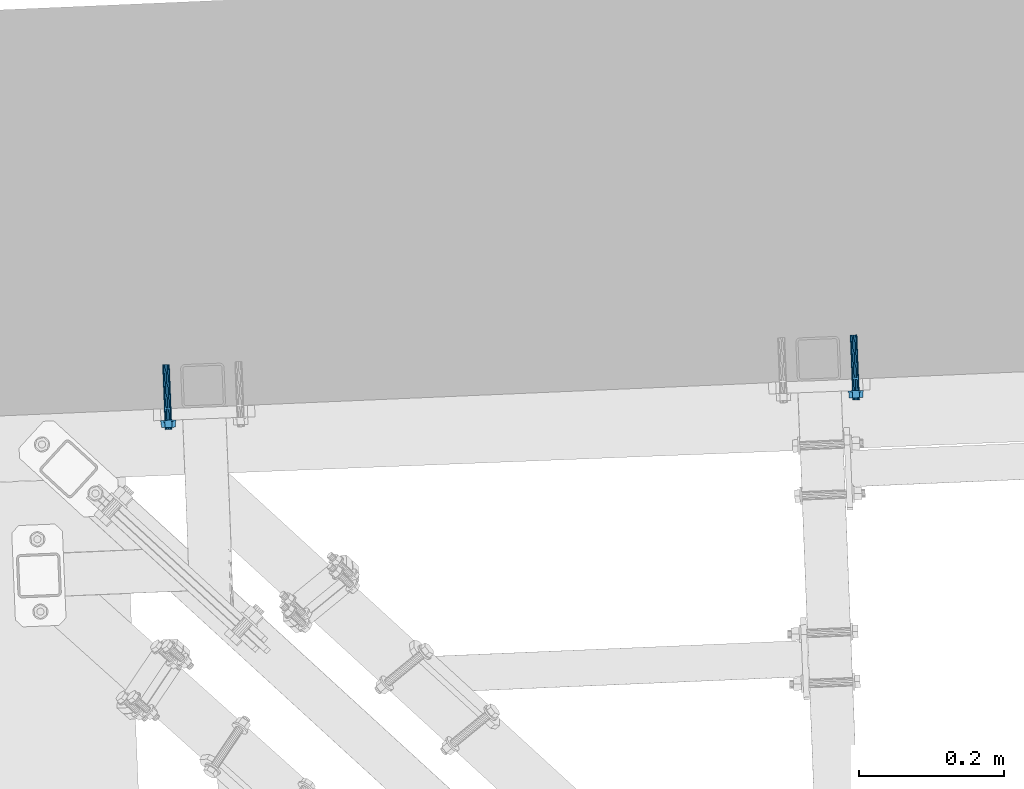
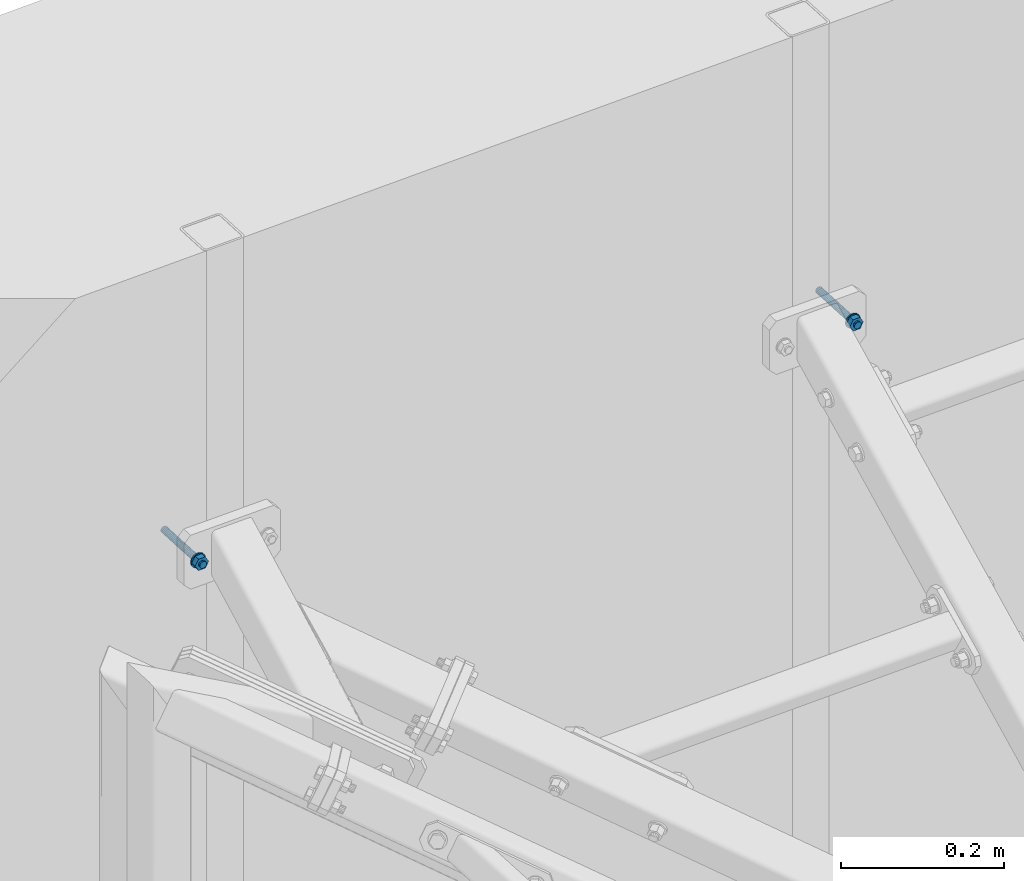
# One storey, part 256 of 288: 2 mechanical fasteners.
"""IFC2X3 building model written with IfcOpenShell, lengths in millimetres."""

from ifc_helpers import new_model, entity, si_unit, converted_unit, origin_with_axes, place, context, project, spatial, faceted_brep, element, save


model = new_model("IFC2X3")

# Units and contexts
model_context = context("Model", 3, precision=1e-09, world=origin_with_axes())
ifc_project = project(units=[si_unit("LENGTHUNIT", "METRE", prefix="MILLI"), si_unit("AREAUNIT", "SQUARE_METRE"), si_unit("VOLUMEUNIT", "CUBIC_METRE"), converted_unit("PLANEANGLEUNIT", "DEGREE", entity("IfcPlaneAngleMeasure", 0.01745329), si_unit("PLANEANGLEUNIT", "RADIAN"), dimensions=[0, 0, 0, 0, 0, 0, 0])], contexts=[model_context])

# Site, building, storey
site_placement = place(None, origin_with_axes())
site = spatial("IfcSite", under=ifc_project, at=site_placement, Name="Remont ?wietlik?w nad MC w NCPP w Opolu", CompositionType="ELEMENT")
building_placement = place(site_placement, origin_with_axes())
building = spatial("IfcBuilding", under=site, at=building_placement, Name="Konstrukcja 1", CompositionType="ELEMENT")
storey_placement = place(building_placement, origin_with_axes())
storey = spatial("IfcBuildingStorey", under=building, at=storey_placement, Name="Default Storey", CompositionType="ELEMENT", Elevation=0.0)

# Mechanical fasteners
mechanical_fastener_1_placement = place(None, origin_with_axes())
element("IfcMechanicalFastener", 1, at=mechanical_fastener_1_placement, inside=storey, ObjectType="Anchor_Bolt", NominalDiameter=10.0, NominalLength=90.0, context=model_context, shape_type="Brep", body=[
    faceted_brep([(-584.520284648, 15507.84960625, 1296.825245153), (-584.59907081, 15509.848053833, 1296.825245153), (-586.645929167, 15509.767359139, 1296.623490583), (-586.567143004, 15507.768911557, 1296.623490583), (-588.614127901, 15509.689765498, 1296.025980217), (-588.535341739, 15507.691317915, 1296.025980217), (-590.428030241, 15509.618254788, 1295.055676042), (-590.349244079, 15507.619807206, 1295.055676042), (-592.017928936, 15509.555575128, 1293.749866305), (-591.939142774, 15507.557127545, 1293.749866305), (-593.322725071, 15509.504135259, 1292.15873254), (-593.243938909, 15507.505687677, 1292.15873254), (-594.292276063, 15509.465911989, 1290.343421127), (-594.2134899, 15507.467464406, 1290.343421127), (-594.889322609, 15509.442374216, 1288.373693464), (-594.810536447, 15507.443926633, 1288.373693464), (-595.090920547, 15509.434426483, 1286.325245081), (-595.012134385, 15507.4359789, 1286.325245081), (-594.889322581, 15509.442374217, 1284.276796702), (-594.810536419, 15507.443926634, 1284.276796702), (-594.292276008, 15509.465911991, 1282.307069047), (-594.213489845, 15507.467464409, 1282.307069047), (-593.322724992, 15509.504135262, 1280.491757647), (-593.243938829, 15507.50568768, 1280.491757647), (-592.017928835, 15509.555575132, 1278.9006239), (-591.939142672, 15507.557127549, 1278.9006239), (-590.428030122, 15509.618254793, 1277.594814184), (-590.34924396, 15507.619807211, 1277.594814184), (-588.614127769, 15509.689765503, 1276.624510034), (-588.535341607, 15507.69131792, 1276.624510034), (-586.645929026, 15509.767359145, 1276.026999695), (-586.567142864, 15507.768911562, 1276.026999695), (-584.599070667, 15509.848053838, 1275.825245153), (-584.520284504, 15507.849606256, 1275.825245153), (-582.55221231, 15509.928748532, 1276.026999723), (-582.473426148, 15507.930300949, 1276.026999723), (-580.584013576, 15510.006342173, 1276.624510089), (-580.505227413, 15508.007894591, 1276.624510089), (-578.770111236, 15510.077852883, 1277.594814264), (-578.691325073, 15508.0794053, 1277.594814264), (-577.180212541, 15510.140532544, 1278.900624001), (-577.101426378, 15508.142084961, 1278.900624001), (-575.875416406, 15510.191972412, 1280.491757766), (-575.796630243, 15508.193524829, 1280.491757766), (-574.905865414, 15510.230195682, 1282.30706918), (-574.827079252, 15508.2317481, 1282.30706918), (-574.308818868, 15510.253733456, 1284.276796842), (-574.230032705, 15508.255285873, 1284.276796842), (-574.10722093, 15510.261681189, 1286.325245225), (-574.028434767, 15508.263233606, 1286.325245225), (-574.308818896, 15510.253733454, 1288.373693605), (-574.230032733, 15508.255285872, 1288.373693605), (-574.905865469, 15510.23019568, 1290.343421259), (-574.827079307, 15508.231748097, 1290.343421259), (-575.875416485, 15510.191972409, 1292.158732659), (-575.796630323, 15508.193524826, 1292.158732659), (-577.180212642, 15510.14053254, 1293.749866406), (-577.10142648, 15508.142084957, 1293.749866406), (-578.770111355, 15510.077852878, 1295.055676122), (-578.691325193, 15508.079405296, 1295.055676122), (-580.584013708, 15510.006342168, 1296.025980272), (-580.505227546, 15508.007894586, 1296.025980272), (-582.552212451, 15509.928748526, 1296.623490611), (-582.473426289, 15507.930300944, 1296.623490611)], [[[0, 1, 2, 3]], [[3, 2, 4, 5]], [[5, 4, 6, 7]], [[7, 6, 8, 9]], [[9, 8, 10, 11]], [[11, 10, 12, 13]], [[13, 12, 14, 15]], [[15, 14, 16, 17]], [[17, 16, 18, 19]], [[19, 18, 20, 21]], [[21, 20, 22, 23]], [[23, 22, 24, 25]], [[25, 24, 26, 27]], [[27, 26, 28, 29]], [[29, 28, 30, 31]], [[31, 30, 32, 33]], [[33, 32, 34, 35]], [[35, 34, 36, 37]], [[37, 36, 38, 39]], [[39, 38, 40, 41]], [[41, 40, 42, 43]], [[43, 42, 44, 45]], [[45, 44, 46, 47]], [[47, 46, 48, 49]], [[49, 48, 50, 51]], [[51, 50, 52, 53]], [[53, 52, 54, 55]], [[55, 54, 56, 57]], [[57, 56, 58, 59]], [[59, 58, 60, 61]], [[61, 60, 62, 63]], [[63, 62, 1, 0]], [[0, 3, 5, 7, 9, 11, 13, 15, 17, 19, 21, 23, 25, 27, 29, 31, 33, 35, 37, 39, 41, 43, 45, 47, 49, 51, 53, 55, 57, 59, 61, 63]], [[1, 62, 60, 58, 56, 54, 52, 50, 48, 46, 44, 42, 40, 38, 36, 34, 32, 30, 28, 26, 24, 22, 20, 18, 16, 14, 12, 10, 8, 6, 4, 2]]]),
    faceted_brep([(-589.416481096, 15507.656580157, 1277.838196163), (-589.101336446, 15499.662789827, 1277.838196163), (-593.997533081, 15499.469763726, 1286.325245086), (-594.312677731, 15507.463554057, 1286.325245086), (-589.101336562, 15499.662789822, 1294.812294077), (-589.416481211, 15507.656580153, 1294.812294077), (-579.308943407, 15500.048842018, 1294.812294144), (-579.624088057, 15508.042632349, 1294.812294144), (-574.412746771, 15500.241868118, 1286.32524522), (-574.727891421, 15508.235658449, 1286.32524522), (-579.308943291, 15500.048842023, 1277.83819623), (-579.624087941, 15508.042632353, 1277.83819623)], [[[0, 1, 2, 3]], [[3, 2, 4, 5]], [[5, 4, 6, 7]], [[7, 6, 8, 9]], [[9, 8, 10, 11]], [[11, 10, 1, 0]], [[4, 2, 1, 10, 8, 6]], [[0, 3, 5, 7, 9, 11]]]),
    faceted_brep([(-584.086960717, 15496.858144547, 1291.325245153), (-584.20513996, 15499.855815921, 1291.325245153), (-586.117071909, 15499.780440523, 1290.944642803), (-585.998892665, 15496.782769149, 1290.944642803), (-587.737929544, 15499.716540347, 1289.860779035), (-587.6197503, 15496.718868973, 1289.860779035), (-588.820951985, 15499.673843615, 1288.238662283), (-588.702772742, 15496.676172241, 1288.238662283), (-589.201258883, 15499.658850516, 1286.325245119), (-589.083079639, 15496.661179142, 1286.325245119), (-588.820951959, 15499.673843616, 1284.41182796), (-588.702772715, 15496.676172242, 1284.41182796), (-587.737929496, 15499.716540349, 1282.789711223), (-587.619750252, 15496.718868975, 1282.789711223), (-586.117071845, 15499.780440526, 1281.705847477), (-585.998892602, 15496.782769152, 1281.705847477), (-584.205139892, 15499.855815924, 1281.325245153), (-584.086960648, 15496.85814455, 1281.325245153), (-582.293207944, 15499.931191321, 1281.705847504), (-582.1750287, 15496.933519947, 1281.705847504), (-580.672350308, 15499.995091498, 1282.789711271), (-580.554171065, 15496.997420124, 1282.789711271), (-579.589327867, 15500.03778823, 1284.411828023), (-579.471148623, 15497.040116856, 1284.411828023), (-579.20902097, 15500.052781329, 1286.325245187), (-579.090841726, 15497.055109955, 1286.325245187), (-579.589327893, 15500.037788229, 1288.238662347), (-579.47114865, 15497.040116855, 1288.238662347), (-580.672350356, 15499.995091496, 1289.860779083), (-580.554171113, 15496.997420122, 1289.860779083), (-582.293208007, 15499.931191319, 1290.944642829), (-582.175028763, 15496.933519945, 1290.944642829)], [[[0, 1, 2, 3]], [[3, 2, 4, 5]], [[5, 4, 6, 7]], [[7, 6, 8, 9]], [[9, 8, 10, 11]], [[11, 10, 12, 13]], [[13, 12, 14, 15]], [[15, 14, 16, 17]], [[17, 16, 18, 19]], [[19, 18, 20, 21]], [[21, 20, 22, 23]], [[23, 22, 24, 25]], [[25, 24, 26, 27]], [[27, 26, 28, 29]], [[29, 28, 30, 31]], [[31, 30, 1, 0]], [[0, 3, 5, 7, 9, 11, 13, 15, 17, 19, 21, 23, 25, 27, 29, 31]], [[1, 30, 28, 26, 24, 22, 20, 18, 16, 14, 12, 10, 8, 6, 4, 2]]]),
    faceted_brep([(-584.599070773, 15509.848053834, 1291.325245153), (-585.229360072, 15525.835634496, 1291.325245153), (-587.141292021, 15525.760259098, 1290.944642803), (-586.511002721, 15509.772678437, 1290.944642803), (-588.762149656, 15525.696358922, 1289.860779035), (-588.131860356, 15509.70877826, 1289.860779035), (-589.845172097, 15525.653662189, 1288.238662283), (-589.214882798, 15509.666081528, 1288.238662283), (-590.225478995, 15525.638669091, 1286.325245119), (-589.595189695, 15509.65108843, 1286.325245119), (-589.845172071, 15525.65366219, 1284.41182796), (-589.214882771, 15509.666081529, 1284.41182796), (-588.762149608, 15525.696358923, 1282.789711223), (-588.131860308, 15509.708778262, 1282.789711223), (-587.141291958, 15525.7602591, 1281.705847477), (-586.511002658, 15509.772678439, 1281.705847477), (-585.229360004, 15525.835634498, 1281.325245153), (-584.599070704, 15509.848053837, 1281.325245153), (-583.317428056, 15525.911009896, 1281.705847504), (-582.687138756, 15509.923429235, 1281.705847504), (-581.69657042, 15525.974910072, 1282.789711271), (-581.066281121, 15509.987329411, 1282.789711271), (-580.613547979, 15526.017606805, 1284.411828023), (-579.983258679, 15510.030026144, 1284.411828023), (-580.233241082, 15526.032599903, 1286.325245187), (-579.602951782, 15510.045019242, 1286.325245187), (-580.613548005, 15526.017606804, 1288.238662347), (-579.983258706, 15510.030026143, 1288.238662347), (-581.696570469, 15525.97491007, 1289.860779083), (-581.066281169, 15509.987329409, 1289.860779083), (-583.317428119, 15525.911009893, 1290.944642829), (-582.687138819, 15509.923429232, 1290.944642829)], [[[0, 1, 2, 3]], [[3, 2, 4, 5]], [[5, 4, 6, 7]], [[7, 6, 8, 9]], [[9, 8, 10, 11]], [[11, 10, 12, 13]], [[13, 12, 14, 15]], [[15, 14, 16, 17]], [[17, 16, 18, 19]], [[19, 18, 20, 21]], [[21, 20, 22, 23]], [[23, 22, 24, 25]], [[25, 24, 26, 27]], [[27, 26, 28, 29]], [[29, 28, 30, 31]], [[31, 30, 1, 0]], [[0, 3, 5, 7, 9, 11, 13, 15, 17, 19, 21, 23, 25, 27, 29, 31]], [[1, 30, 28, 26, 24, 22, 20, 18, 16, 14, 12, 10, 8, 6, 4, 2]]]),
    faceted_brep([(-585.229360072, 15525.835634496, 1291.325245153), (-585.268753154, 15526.834858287, 1291.325245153), (-586.243447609, 15526.796432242, 1291.229171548), (-586.204054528, 15525.797208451, 1291.229171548), (-587.180685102, 15526.759482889, 1290.944642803), (-587.141292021, 15525.760259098, 1290.944642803), (-588.044448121, 15526.72543017, 1290.482593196), (-588.00505504, 15525.726206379, 1290.482593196), (-588.801542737, 15526.695582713, 1289.860779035), (-588.762149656, 15525.696358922, 1289.860779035), (-589.42287423, 15526.671087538, 1289.10309629), (-589.383481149, 15525.671863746, 1289.10309629), (-589.884565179, 15526.65288598, 1288.238662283), (-589.845172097, 15525.653662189, 1288.238662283), (-590.168873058, 15526.641677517, 1287.30069673), (-590.129479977, 15525.642453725, 1287.30069673), (-590.264872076, 15526.637892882, 1286.325245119), (-590.225478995, 15525.638669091, 1286.325245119), (-590.168873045, 15526.641677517, 1285.34979351), (-590.129479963, 15525.642453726, 1285.34979351), (-589.884565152, 15526.652885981, 1284.41182796), (-589.845172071, 15525.65366219, 1284.41182796), (-589.422874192, 15526.671087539, 1283.54739396), (-589.383481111, 15525.671863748, 1283.54739396), (-588.801542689, 15526.695582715, 1282.789711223), (-588.762149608, 15525.696358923, 1282.789711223), (-588.044448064, 15526.725430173, 1282.167897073), (-588.005054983, 15525.726206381, 1282.167897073), (-587.180685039, 15526.759482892, 1281.705847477), (-587.141291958, 15525.7602591, 1281.705847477), (-586.243447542, 15526.796432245, 1281.421318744), (-586.204054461, 15525.797208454, 1281.421318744), (-585.268753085, 15526.83485829, 1281.325245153), (-585.229360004, 15525.835634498, 1281.325245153), (-584.29405863, 15526.873284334, 1281.421318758), (-584.254665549, 15525.874060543, 1281.421318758), (-583.356821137, 15526.910233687, 1281.705847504), (-583.317428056, 15525.911009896, 1281.705847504), (-582.493058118, 15526.944286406, 1282.167897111), (-582.453665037, 15525.945062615, 1282.167897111), (-581.735963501, 15526.974133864, 1282.789711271), (-581.69657042, 15525.974910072, 1282.789711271), (-581.114632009, 15526.998629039, 1283.547394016), (-581.075238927, 15525.999405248, 1283.547394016), (-580.65294106, 15527.016830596, 1284.411828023), (-580.613547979, 15526.017606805, 1284.411828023), (-580.368633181, 15527.02803906, 1285.349793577), (-580.3292401, 15526.028815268, 1285.349793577), (-580.272634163, 15527.031823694, 1286.325245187), (-580.233241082, 15526.032599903, 1286.325245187), (-580.368633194, 15527.028039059, 1287.300696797), (-580.329240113, 15526.028815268, 1287.300696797), (-580.652941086, 15527.016830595, 1288.238662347), (-580.613548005, 15526.017606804, 1288.238662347), (-581.114632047, 15526.998629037, 1289.103096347), (-581.075238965, 15525.999405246, 1289.103096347), (-581.73596355, 15526.974133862, 1289.860779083), (-581.696570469, 15525.97491007, 1289.860779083), (-582.493058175, 15526.944286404, 1290.482593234), (-582.453665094, 15525.945062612, 1290.482593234), (-583.3568212, 15526.910233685, 1290.944642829), (-583.317428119, 15525.911009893, 1290.944642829), (-584.294058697, 15526.873284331, 1291.229171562), (-584.254665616, 15525.87406054, 1291.229171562)], [[[0, 1, 2, 3]], [[3, 2, 4, 5]], [[5, 4, 6, 7]], [[7, 6, 8, 9]], [[9, 8, 10, 11]], [[11, 10, 12, 13]], [[13, 12, 14, 15]], [[15, 14, 16, 17]], [[17, 16, 18, 19]], [[19, 18, 20, 21]], [[21, 20, 22, 23]], [[23, 22, 24, 25]], [[25, 24, 26, 27]], [[27, 26, 28, 29]], [[29, 28, 30, 31]], [[31, 30, 32, 33]], [[33, 32, 34, 35]], [[35, 34, 36, 37]], [[37, 36, 38, 39]], [[39, 38, 40, 41]], [[41, 40, 42, 43]], [[43, 42, 44, 45]], [[45, 44, 46, 47]], [[47, 46, 48, 49]], [[49, 48, 50, 51]], [[51, 50, 52, 53]], [[53, 52, 54, 55]], [[55, 54, 56, 57]], [[57, 56, 58, 59]], [[59, 58, 60, 61]], [[61, 60, 62, 63]], [[63, 62, 1, 0]], [[0, 3, 5, 7, 9, 11, 13, 15, 17, 19, 21, 23, 25, 27, 29, 31, 33, 35, 37, 39, 41, 43, 45, 47, 49, 51, 53, 55, 57, 59, 61, 63]], [[1, 62, 60, 58, 56, 54, 52, 50, 48, 46, 44, 42, 40, 38, 36, 34, 32, 30, 28, 26, 24, 22, 20, 18, 16, 14, 12, 10, 8, 6, 4, 2]]]),
    faceted_brep([(-585.268753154, 15526.834858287, 1291.325245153), (-587.632338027, 15586.788285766, 1291.325245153), (-589.544269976, 15586.712910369, 1290.944642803), (-587.180685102, 15526.759482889, 1290.944642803), (-591.165127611, 15586.649010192, 1289.860779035), (-588.801542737, 15526.695582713, 1289.860779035), (-592.248150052, 15586.60631346, 1288.238662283), (-589.884565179, 15526.65288598, 1288.238662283), (-592.62845695, 15586.591320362, 1286.325245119), (-590.264872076, 15526.637892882, 1286.325245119), (-592.248150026, 15586.606313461, 1284.41182796), (-589.884565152, 15526.652885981, 1284.41182796), (-591.165127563, 15586.649010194, 1282.789711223), (-588.801542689, 15526.695582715, 1282.789711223), (-589.544269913, 15586.712910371, 1281.705847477), (-587.180685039, 15526.759482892, 1281.705847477), (-587.632337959, 15586.788285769, 1281.325245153), (-585.268753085, 15526.83485829, 1281.325245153), (-585.720406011, 15586.863661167, 1281.705847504), (-583.356821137, 15526.910233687, 1281.705847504), (-584.099548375, 15586.927561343, 1282.789711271), (-581.735963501, 15526.974133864, 1282.789711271), (-583.016525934, 15586.970258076, 1284.411828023), (-580.65294106, 15527.016830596, 1284.411828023), (-582.636219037, 15586.985251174, 1286.325245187), (-580.272634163, 15527.031823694, 1286.325245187), (-583.01652596, 15586.970258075, 1288.238662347), (-580.652941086, 15527.016830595, 1288.238662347), (-584.099548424, 15586.927561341, 1289.860779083), (-581.73596355, 15526.974133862, 1289.860779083), (-585.720406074, 15586.863661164, 1290.944642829), (-583.3568212, 15526.910233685, 1290.944642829)], [[[0, 1, 2, 3]], [[3, 2, 4, 5]], [[5, 4, 6, 7]], [[7, 6, 8, 9]], [[9, 8, 10, 11]], [[11, 10, 12, 13]], [[13, 12, 14, 15]], [[15, 14, 16, 17]], [[17, 16, 18, 19]], [[19, 18, 20, 21]], [[21, 20, 22, 23]], [[23, 22, 24, 25]], [[25, 24, 26, 27]], [[27, 26, 28, 29]], [[29, 28, 30, 31]], [[31, 30, 1, 0]], [[0, 3, 5, 7, 9, 11, 13, 15, 17, 19, 21, 23, 25, 27, 29, 31]], [[1, 30, 28, 26, 24, 22, 20, 18, 16, 14, 12, 10, 8, 6, 4, 2]]]),
])
mechanical_fastener_2_placement = place(None, origin_with_axes())
element("IfcMechanicalFastener", 2, at=mechanical_fastener_2_placement, inside=storey, ObjectType="Anchor_Bolt", NominalDiameter=10.0, NominalLength=90.0, context=model_context, shape_type="Brep", body=[
    faceted_brep([(364.599688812, 15548.795625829, 1297.54999315), (364.520902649, 15550.794073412, 1297.54999315), (362.474044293, 15550.713378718, 1297.348238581), (362.552830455, 15548.714931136, 1297.348238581), (360.505845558, 15550.635785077, 1296.750728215), (360.58463172, 15548.637337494, 1296.750728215), (358.691943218, 15550.564274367, 1295.780424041), (358.77072938, 15548.565826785, 1295.780424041), (357.102044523, 15550.501594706, 1294.474614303), (357.180830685, 15548.503147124, 1294.474614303), (355.797248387, 15550.450154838, 1292.883480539), (355.87603455, 15548.451707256, 1292.883480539), (354.827697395, 15550.411931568, 1291.068169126), (354.906483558, 15548.413483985, 1291.068169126), (354.230650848, 15550.388393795, 1289.098441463), (354.309437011, 15548.389946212, 1289.098441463), (354.02905291, 15550.380446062, 1287.049993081), (354.107839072, 15548.381998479, 1287.049993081), (354.230650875, 15550.388393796, 1285.001544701), (354.309437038, 15548.389946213, 1285.001544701), (354.827697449, 15550.41193157, 1283.031817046), (354.906483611, 15548.413483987, 1283.031817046), (355.797248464, 15550.450154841, 1281.216505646), (355.876034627, 15548.451707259, 1281.216505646), (357.102044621, 15550.50159471, 1279.625371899), (357.180830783, 15548.503147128, 1279.625371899), (358.691943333, 15550.564274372, 1278.319562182), (358.770729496, 15548.565826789, 1278.319562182), (360.505845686, 15550.635785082, 1277.349258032), (360.584631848, 15548.637337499, 1277.349258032), (362.474044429, 15550.713378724, 1276.751747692), (362.552830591, 15548.714931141, 1276.751747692), (364.520902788, 15550.794073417, 1276.54999315), (364.59968895, 15548.795625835, 1276.54999315), (366.567761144, 15550.874768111, 1276.751747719), (366.646547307, 15548.876320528, 1276.751747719), (368.535959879, 15550.952361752, 1277.349258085), (368.614746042, 15548.953914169, 1277.349258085), (370.349862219, 15551.023872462, 1278.319562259), (370.428648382, 15549.025424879, 1278.319562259), (371.939760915, 15551.086552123, 1279.625371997), (372.018547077, 15549.08810454, 1279.625371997), (373.24455705, 15551.137991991, 1281.216505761), (373.323343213, 15549.139544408, 1281.216505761), (374.214108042, 15551.176215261, 1283.031817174), (374.292894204, 15549.177767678, 1283.031817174), (374.811154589, 15551.199753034, 1285.001544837), (374.889940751, 15549.201305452, 1285.001544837), (375.012752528, 15551.207700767, 1287.049993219), (375.09153869, 15549.209253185, 1287.049993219), (374.811154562, 15551.199753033, 1289.098441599), (374.889940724, 15549.201305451, 1289.098441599), (374.214107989, 15551.176215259, 1291.068169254), (374.292894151, 15549.177767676, 1291.068169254), (373.244556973, 15551.137991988, 1292.883480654), (373.323343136, 15549.139544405, 1292.883480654), (371.939760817, 15551.086552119, 1294.474614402), (372.018546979, 15549.088104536, 1294.474614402), (370.349862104, 15551.023872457, 1295.780424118), (370.428648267, 15549.025424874, 1295.780424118), (368.535959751, 15550.952361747, 1296.750728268), (368.614745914, 15548.953914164, 1296.750728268), (366.567761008, 15550.874768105, 1297.348238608), (366.646547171, 15548.876320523, 1297.348238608)], [[[0, 1, 2, 3]], [[3, 2, 4, 5]], [[5, 4, 6, 7]], [[7, 6, 8, 9]], [[9, 8, 10, 11]], [[11, 10, 12, 13]], [[13, 12, 14, 15]], [[15, 14, 16, 17]], [[17, 16, 18, 19]], [[19, 18, 20, 21]], [[21, 20, 22, 23]], [[23, 22, 24, 25]], [[25, 24, 26, 27]], [[27, 26, 28, 29]], [[29, 28, 30, 31]], [[31, 30, 32, 33]], [[33, 32, 34, 35]], [[35, 34, 36, 37]], [[37, 36, 38, 39]], [[39, 38, 40, 41]], [[41, 40, 42, 43]], [[43, 42, 44, 45]], [[45, 44, 46, 47]], [[47, 46, 48, 49]], [[49, 48, 50, 51]], [[51, 50, 52, 53]], [[53, 52, 54, 55]], [[55, 54, 56, 57]], [[57, 56, 58, 59]], [[59, 58, 60, 61]], [[61, 60, 62, 63]], [[63, 62, 1, 0]], [[0, 3, 5, 7, 9, 11, 13, 15, 17, 19, 21, 23, 25, 27, 29, 31, 33, 35, 37, 39, 41, 43, 45, 47, 49, 51, 53, 55, 57, 59, 61, 63]], [[1, 62, 60, 58, 56, 54, 52, 50, 48, 46, 44, 42, 40, 38, 36, 34, 32, 30, 28, 26, 24, 22, 20, 18, 16, 14, 12, 10, 8, 6, 4, 2]]]),
    faceted_brep([(359.70349236, 15548.602599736, 1278.562944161), (360.01863701, 15540.608809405, 1278.562944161), (355.122440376, 15540.415783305, 1287.049993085), (354.807295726, 15548.409573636, 1287.049993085), (360.018636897, 15540.608809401, 1295.537042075), (359.703492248, 15548.602599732, 1295.537042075), (369.811030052, 15540.994861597, 1295.53704214), (369.495885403, 15548.988651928, 1295.53704214), (374.707226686, 15541.187887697, 1287.049993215), (374.392082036, 15549.181678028, 1287.049993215), (369.811030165, 15540.994861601, 1278.562944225), (369.495885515, 15548.988651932, 1278.562944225)], [[[0, 1, 2, 3]], [[3, 2, 4, 5]], [[5, 4, 6, 7]], [[7, 6, 8, 9]], [[9, 8, 10, 11]], [[11, 10, 1, 0]], [[4, 2, 1, 10, 8, 6]], [[0, 3, 5, 7, 9, 11]]]),
    faceted_brep([(365.033012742, 15537.804164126, 1292.04999315), (364.914833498, 15540.8018355, 1292.04999315), (363.00290155, 15540.726460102, 1291.6693908), (363.121080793, 15537.728788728, 1291.6693908), (361.382043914, 15540.662559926, 1290.585527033), (361.500223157, 15537.664888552, 1290.585527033), (360.299021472, 15540.619863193, 1288.963410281), (360.417200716, 15537.622191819, 1288.963410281), (359.918714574, 15540.604870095, 1287.049993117), (360.036893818, 15537.607198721, 1287.049993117), (360.299021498, 15540.619863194, 1285.136575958), (360.417200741, 15537.62219182, 1285.136575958), (361.38204396, 15540.662559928, 1283.514459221), (361.500223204, 15537.664888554, 1283.514459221), (363.002901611, 15540.726460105, 1282.430595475), (363.121080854, 15537.728788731, 1282.430595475), (364.914833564, 15540.801835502, 1282.04999315), (365.033012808, 15537.804164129, 1282.04999315), (366.826765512, 15540.8772109, 1282.4305955), (366.944944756, 15537.879539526, 1282.4305955), (368.447623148, 15540.941111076, 1283.514459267), (368.565802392, 15537.943439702, 1283.514459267), (369.53064559, 15540.983807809, 1285.136576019), (369.648824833, 15537.986136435, 1285.136576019), (369.910952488, 15540.998800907, 1287.049993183), (370.029131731, 15538.001129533, 1287.049993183), (369.530645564, 15540.983807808, 1288.963410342), (369.648824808, 15537.986136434, 1288.963410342), (368.447623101, 15540.941111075, 1290.585527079), (368.565802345, 15537.943439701, 1290.585527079), (366.826765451, 15540.877210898, 1291.669390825), (366.944944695, 15537.879539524, 1291.669390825)], [[[0, 1, 2, 3]], [[3, 2, 4, 5]], [[5, 4, 6, 7]], [[7, 6, 8, 9]], [[9, 8, 10, 11]], [[11, 10, 12, 13]], [[13, 12, 14, 15]], [[15, 14, 16, 17]], [[17, 16, 18, 19]], [[19, 18, 20, 21]], [[21, 20, 22, 23]], [[23, 22, 24, 25]], [[25, 24, 26, 27]], [[27, 26, 28, 29]], [[29, 28, 30, 31]], [[31, 30, 1, 0]], [[0, 3, 5, 7, 9, 11, 13, 15, 17, 19, 21, 23, 25, 27, 29, 31]], [[1, 30, 28, 26, 24, 22, 20, 18, 16, 14, 12, 10, 8, 6, 4, 2]]]),
    faceted_brep([(364.520902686, 15550.794073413, 1292.04999315), (363.890613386, 15566.781654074, 1292.04999315), (361.978681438, 15566.706278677, 1291.6693908), (362.608970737, 15550.718698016, 1291.6693908), (360.357823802, 15566.6423785, 1290.585527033), (360.988113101, 15550.654797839, 1290.585527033), (359.27480136, 15566.599681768, 1288.963410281), (359.90509066, 15550.612101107, 1288.963410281), (358.894494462, 15566.58468867, 1287.049993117), (359.524783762, 15550.597108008, 1287.049993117), (359.274801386, 15566.599681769, 1285.136575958), (359.905090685, 15550.612101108, 1285.136575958), (360.357823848, 15566.642378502, 1283.514459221), (360.988113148, 15550.654797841, 1283.514459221), (361.978681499, 15566.706278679, 1282.430595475), (362.608970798, 15550.718698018, 1282.430595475), (363.890613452, 15566.781654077, 1282.04999315), (364.520902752, 15550.794073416, 1282.04999315), (365.8025454, 15566.857029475, 1282.4305955), (366.4328347, 15550.869448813, 1282.4305955), (367.423403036, 15566.920929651, 1283.514459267), (368.053692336, 15550.93334899, 1283.514459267), (368.506425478, 15566.963626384, 1285.136576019), (369.136714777, 15550.976045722, 1285.136576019), (368.886732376, 15566.978619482, 1287.049993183), (369.517021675, 15550.991038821, 1287.049993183), (368.506425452, 15566.963626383, 1288.963410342), (369.136714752, 15550.976045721, 1288.963410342), (367.423402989, 15566.920929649, 1290.585527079), (368.053692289, 15550.933348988, 1290.585527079), (365.802545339, 15566.857029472, 1291.669390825), (366.432834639, 15550.869448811, 1291.669390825)], [[[0, 1, 2, 3]], [[3, 2, 4, 5]], [[5, 4, 6, 7]], [[7, 6, 8, 9]], [[9, 8, 10, 11]], [[11, 10, 12, 13]], [[13, 12, 14, 15]], [[15, 14, 16, 17]], [[17, 16, 18, 19]], [[19, 18, 20, 21]], [[21, 20, 22, 23]], [[23, 22, 24, 25]], [[25, 24, 26, 27]], [[27, 26, 28, 29]], [[29, 28, 30, 31]], [[31, 30, 1, 0]], [[0, 3, 5, 7, 9, 11, 13, 15, 17, 19, 21, 23, 25, 27, 29, 31]], [[1, 30, 28, 26, 24, 22, 20, 18, 16, 14, 12, 10, 8, 6, 4, 2]]]),
    faceted_brep([(363.890613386, 15566.781654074, 1292.04999315), (363.851220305, 15567.780877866, 1292.04999315), (362.876525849, 15567.742451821, 1291.953919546), (362.91591893, 15566.74322803, 1291.953919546), (361.939288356, 15567.705502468, 1291.6693908), (361.978681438, 15566.706278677, 1291.6693908), (361.075525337, 15567.671449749, 1291.207341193), (361.114918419, 15566.672225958, 1291.207341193), (360.318430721, 15567.641602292, 1290.585527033), (360.357823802, 15566.6423785, 1290.585527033), (359.697099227, 15567.617107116, 1289.827844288), (359.736492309, 15566.617883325, 1289.827844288), (359.235408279, 15567.598905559, 1288.963410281), (359.27480136, 15566.599681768, 1288.963410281), (358.951100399, 15567.587697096, 1288.025444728), (358.990493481, 15566.588473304, 1288.025444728), (358.855101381, 15567.583912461, 1287.049993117), (358.894494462, 15566.58468867, 1287.049993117), (358.951100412, 15567.587697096, 1286.074541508), (358.990493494, 15566.588473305, 1286.074541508), (359.235408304, 15567.59890556, 1285.136575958), (359.274801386, 15566.599681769, 1285.136575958), (359.697099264, 15567.617107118, 1284.272141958), (359.736492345, 15566.617883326, 1284.272141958), (360.318430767, 15567.641602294, 1283.514459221), (360.357823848, 15566.642378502, 1283.514459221), (361.075525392, 15567.671449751, 1282.89264507), (361.114918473, 15566.67222596, 1282.89264507), (361.939288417, 15567.705502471, 1282.430595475), (361.978681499, 15566.706278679, 1282.430595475), (362.876525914, 15567.742451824, 1282.146066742), (362.915918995, 15566.743228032, 1282.146066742), (363.851220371, 15567.780877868, 1282.04999315), (363.890613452, 15566.781654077, 1282.04999315), (364.825914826, 15567.819303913, 1282.146066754), (364.865307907, 15566.820080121, 1282.146066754), (365.763152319, 15567.856253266, 1282.4305955), (365.8025454, 15566.857029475, 1282.4305955), (366.626915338, 15567.890305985, 1282.892645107), (366.666308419, 15566.891082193, 1282.892645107), (367.384009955, 15567.920153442, 1283.514459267), (367.423403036, 15566.920929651, 1283.514459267), (368.005341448, 15567.944648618, 1284.272142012), (368.044734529, 15566.945424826, 1284.272142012), (368.467032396, 15567.962850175, 1285.136576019), (368.506425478, 15566.963626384, 1285.136576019), (368.751340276, 15567.974058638, 1286.074541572), (368.790733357, 15566.974834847, 1286.074541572), (368.847339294, 15567.977843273, 1287.049993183), (368.886732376, 15566.978619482, 1287.049993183), (368.751340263, 15567.974058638, 1288.025444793), (368.790733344, 15566.974834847, 1288.025444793), (368.467032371, 15567.962850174, 1288.963410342), (368.506425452, 15566.963626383, 1288.963410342), (368.005341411, 15567.944648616, 1289.827844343), (368.044734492, 15566.945424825, 1289.827844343), (367.384009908, 15567.92015344, 1290.585527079), (367.423402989, 15566.920929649, 1290.585527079), (366.626915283, 15567.890305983, 1291.20734123), (366.666308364, 15566.891082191, 1291.20734123), (365.763152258, 15567.856253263, 1291.669390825), (365.802545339, 15566.857029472, 1291.669390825), (364.825914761, 15567.81930391, 1291.953919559), (364.865307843, 15566.820080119, 1291.953919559)], [[[0, 1, 2, 3]], [[3, 2, 4, 5]], [[5, 4, 6, 7]], [[7, 6, 8, 9]], [[9, 8, 10, 11]], [[11, 10, 12, 13]], [[13, 12, 14, 15]], [[15, 14, 16, 17]], [[17, 16, 18, 19]], [[19, 18, 20, 21]], [[21, 20, 22, 23]], [[23, 22, 24, 25]], [[25, 24, 26, 27]], [[27, 26, 28, 29]], [[29, 28, 30, 31]], [[31, 30, 32, 33]], [[33, 32, 34, 35]], [[35, 34, 36, 37]], [[37, 36, 38, 39]], [[39, 38, 40, 41]], [[41, 40, 42, 43]], [[43, 42, 44, 45]], [[45, 44, 46, 47]], [[47, 46, 48, 49]], [[49, 48, 50, 51]], [[51, 50, 52, 53]], [[53, 52, 54, 55]], [[55, 54, 56, 57]], [[57, 56, 58, 59]], [[59, 58, 60, 61]], [[61, 60, 62, 63]], [[63, 62, 1, 0]], [[0, 3, 5, 7, 9, 11, 13, 15, 17, 19, 21, 23, 25, 27, 29, 31, 33, 35, 37, 39, 41, 43, 45, 47, 49, 51, 53, 55, 57, 59, 61, 63]], [[1, 62, 60, 58, 56, 54, 52, 50, 48, 46, 44, 42, 40, 38, 36, 34, 32, 30, 28, 26, 24, 22, 20, 18, 16, 14, 12, 10, 8, 6, 4, 2]]]),
    faceted_brep([(363.851220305, 15567.780877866, 1292.04999315), (361.487635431, 15627.734305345, 1292.04999315), (359.575703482, 15627.658929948, 1291.6693908), (361.939288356, 15567.705502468, 1291.6693908), (357.954845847, 15627.595029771, 1290.585527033), (360.318430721, 15567.641602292, 1290.585527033), (356.871823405, 15627.552333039, 1288.963410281), (359.235408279, 15567.598905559, 1288.963410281), (356.491516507, 15627.53733994, 1287.049993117), (358.855101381, 15567.583912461, 1287.049993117), (356.87182343, 15627.55233304, 1285.136575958), (359.235408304, 15567.59890556, 1285.136575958), (357.954845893, 15627.595029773, 1283.514459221), (360.318430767, 15567.641602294, 1283.514459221), (359.575703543, 15627.65892995, 1282.430595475), (361.939288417, 15567.705502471, 1282.430595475), (361.487635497, 15627.734305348, 1282.04999315), (363.851220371, 15567.780877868, 1282.04999315), (363.399567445, 15627.809680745, 1282.4305955), (365.763152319, 15567.856253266, 1282.4305955), (365.020425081, 15627.873580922, 1283.514459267), (367.384009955, 15567.920153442, 1283.514459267), (366.103447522, 15627.916277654, 1285.136576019), (368.467032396, 15567.962850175, 1285.136576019), (366.48375442, 15627.931270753, 1287.049993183), (368.847339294, 15567.977843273, 1287.049993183), (366.103447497, 15627.916277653, 1288.963410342), (368.467032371, 15567.962850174, 1288.963410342), (365.020425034, 15627.87358092, 1290.585527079), (367.384009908, 15567.92015344, 1290.585527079), (363.399567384, 15627.809680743, 1291.669390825), (365.763152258, 15567.856253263, 1291.669390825)], [[[0, 1, 2, 3]], [[3, 2, 4, 5]], [[5, 4, 6, 7]], [[7, 6, 8, 9]], [[9, 8, 10, 11]], [[11, 10, 12, 13]], [[13, 12, 14, 15]], [[15, 14, 16, 17]], [[17, 16, 18, 19]], [[19, 18, 20, 21]], [[21, 20, 22, 23]], [[23, 22, 24, 25]], [[25, 24, 26, 27]], [[27, 26, 28, 29]], [[29, 28, 30, 31]], [[31, 30, 1, 0]], [[0, 3, 5, 7, 9, 11, 13, 15, 17, 19, 21, 23, 25, 27, 29, 31]], [[1, 30, 28, 26, 24, 22, 20, 18, 16, 14, 12, 10, 8, 6, 4, 2]]]),
])

save(model, "model.ifc")
